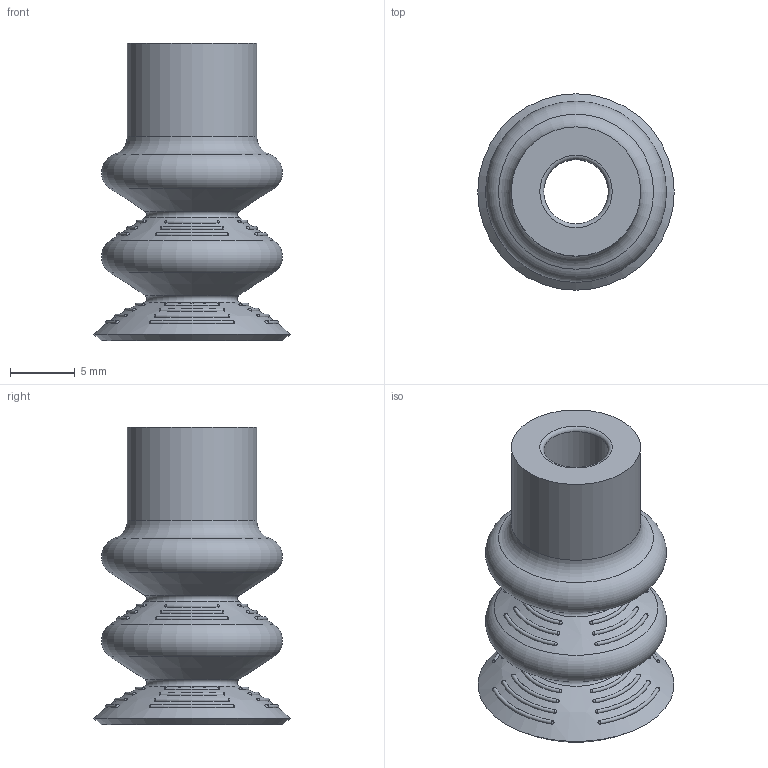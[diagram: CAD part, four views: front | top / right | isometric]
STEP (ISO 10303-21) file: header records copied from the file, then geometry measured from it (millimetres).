
FILE_DESCRIPTION(('STEP AP203'),'1');
FILE_NAME('_3D.stp','2025-02-13T07:39:45',(' '),(' '),'Spatial InterOp 3D',' ',' ');
FILE_SCHEMA(('CONFIG_CONTROL_DESIGN'));
Length unit declared in the file: millimetre
Products named in the file (1): 1
Bounding box: 15.2 x 15.2 x 23 mm (x, y, z)
Volume: 1669.9 mm3; surface area: 1651.4 mm2
Topology: 1 solids, 1 shells, 99 faces, 412 edges, 279 vertices
Faces by surface type: sphere 58, torus 34, cone 4, cylinder 2, plane 1
Full cylindrical faces by diameter (mm): 5 x1, 10 x1
Entity records: 3211 total; most frequent: CARTESIAN_POINT 925, DIRECTION 518, ORIENTED_EDGE 414, AXIS2_PLACEMENT_3D 259, EDGE_CURVE 207, CIRCLE 159, VERTEX_POINT 151, EDGE_LOOP 142
